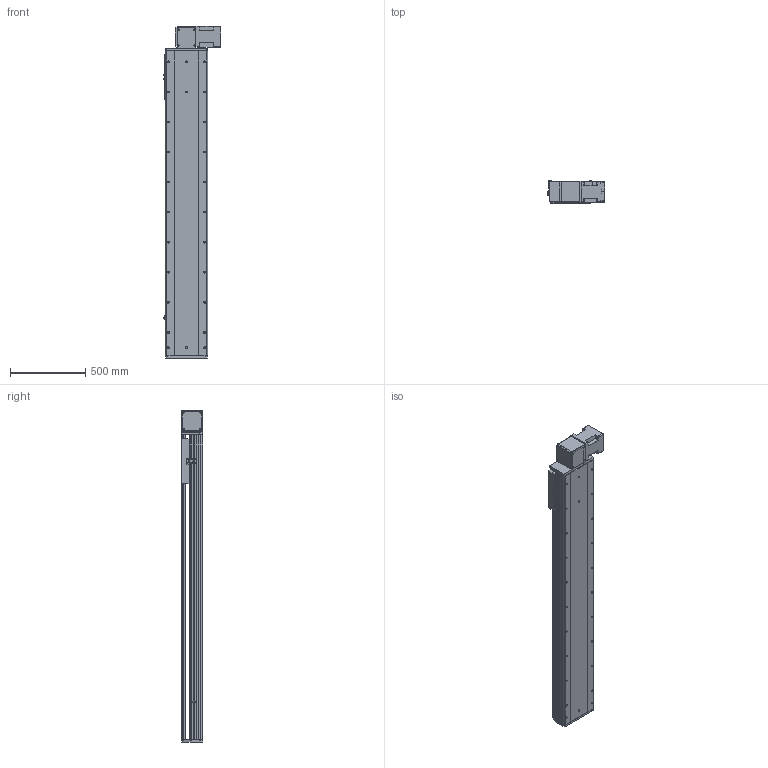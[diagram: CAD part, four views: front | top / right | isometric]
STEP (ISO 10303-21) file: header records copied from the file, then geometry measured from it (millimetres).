
FILE_DESCRIPTION (( 'STEP AP214' ), '1' );
FILE_NAME ('RTB28S-XX-1600-BL-M100-XX-C4.STEP', '2025-12-22T02:23:54', ( '' ), ( '' ), 'SwSTEP 2.0', 'SolidWorks 2018', '' );
FILE_SCHEMA (( 'AUTOMOTIVE_DESIGN' ));
Length unit declared in the file: millimetre
Products named in the file (4): RTB28S-GY-008^RTB28S-XX-XX-BL-M100-XX-C4; RTB28S-GY-004^RTB28S-XX-XX-BL-M100-XX-C4; RTB28S-XX-1600-BL-M100-XX-C4; RTB28S-GY-011^RTB28S-XX-XX-BL-M100-XX-C4
Assembly tree (3 placements, depth 2):
  RTB28S-XX-1600-BL-M100-XX-C4
    RTB28S-GY-011^RTB28S-XX-XX-BL-M100-XX-C4
    RTB28S-GY-004^RTB28S-XX-XX-BL-M100-XX-C4
    RTB28S-GY-008^RTB28S-XX-XX-BL-M100-XX-C4
Bounding box: 380.7 x 145 x 2207 mm (x, y, z)
Volume: 39060417.2 mm3; surface area: 3714656.1 mm2
Topology: 3 solids, 4 shells, 818 faces, 2178 edges, 1388 vertices
Faces by surface type: cylinder 383, plane 351, cone 80, torus 4
Entity records: 30971 total; most frequent: CARTESIAN_POINT 5452, DIRECTION 4620, ORIENTED_EDGE 4292, EDGE_CURVE 2146, AXIS2_PLACEMENT_3D 1680, VERTEX_POINT 1388, LINE 1260, VECTOR 1260
